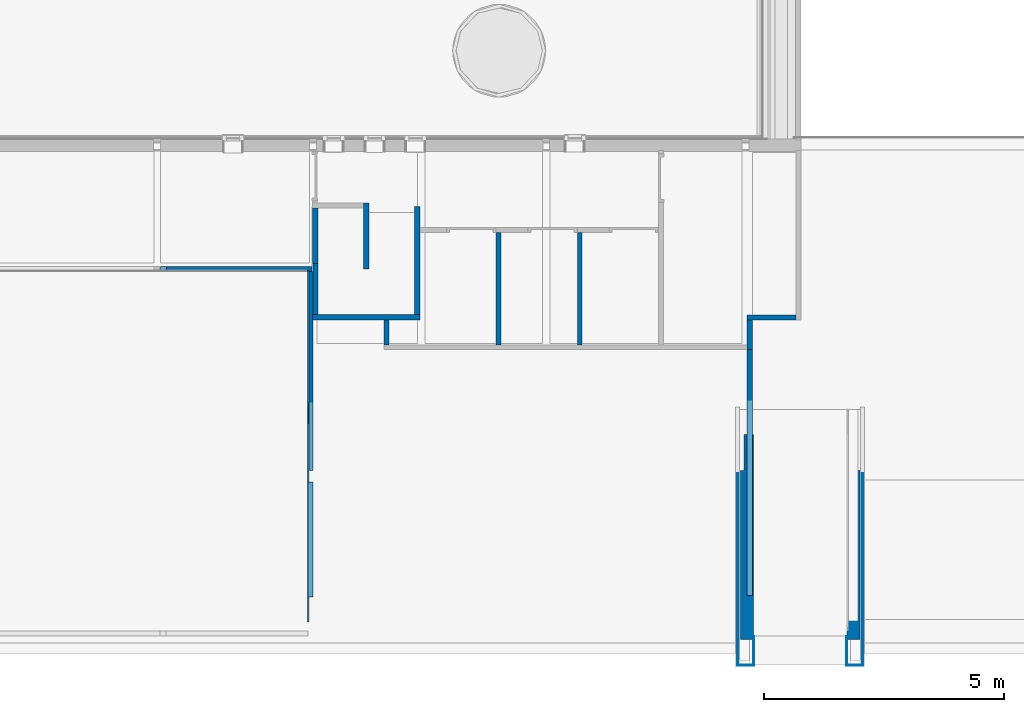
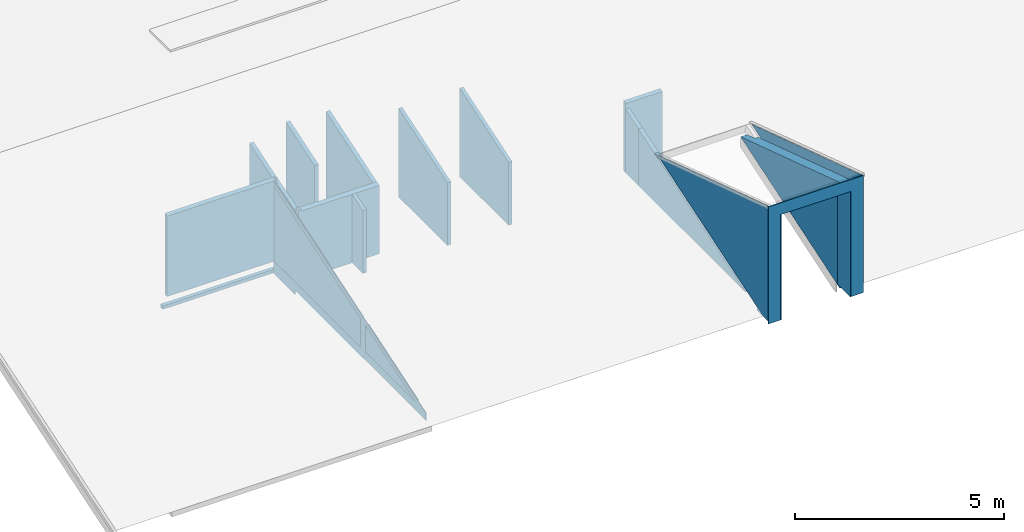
# One storey, part 18 of 66: 23 walls, 6 openings.
"""IFC2X3 building model written with IfcOpenShell, lengths in millimetres."""

from ifc_helpers import new_model, entity, si_unit, converted_unit, derived_unit, direction, frame, frame_2d, origin, place, context, subcontext, project, spatial, polyline, rectangle, outline, extrude, clip, halfspace, bounded_halfspace, material, layer, layer_set, layer_usage, type_object, element, save


model = new_model("IFC2X3")

# Units and contexts
model_context = context("Model", 3, precision=0.01, world=origin(), true_north=direction((6.12303176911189e-17, 1.0)))
body_context = subcontext(model_context, "Body", "Model", "MODEL_VIEW")
ifc_project = project(units=[si_unit("LENGTHUNIT", "METRE", prefix="MILLI"), si_unit("AREAUNIT", "SQUARE_METRE"), si_unit("VOLUMEUNIT", "CUBIC_METRE"), converted_unit("PLANEANGLEUNIT", "DEGREE", entity("IfcRatioMeasure", 0.0174532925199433), si_unit("PLANEANGLEUNIT", "RADIAN"), dimensions=[0, 0, 0, 0, 0, 0, 0]), si_unit("MASSUNIT", "GRAM", prefix="KILO"), derived_unit("MASSDENSITYUNIT", [(si_unit("MASSUNIT", "GRAM", prefix="KILO"), 1), (si_unit("LENGTHUNIT", "METRE"), -3)]), derived_unit("MOMENTOFINERTIAUNIT", [(si_unit("LENGTHUNIT", "METRE"), 4)]), si_unit("TIMEUNIT", "SECOND"), si_unit("FREQUENCYUNIT", "HERTZ"), si_unit("THERMODYNAMICTEMPERATUREUNIT", "DEGREE_CELSIUS"), derived_unit("THERMALTRANSMITTANCEUNIT", [(si_unit("MASSUNIT", "GRAM", prefix="KILO"), 1), (si_unit("THERMODYNAMICTEMPERATUREUNIT", "KELVIN"), -1), (si_unit("TIMEUNIT", "SECOND"), -3)]), derived_unit("VOLUMETRICFLOWRATEUNIT", [(si_unit("LENGTHUNIT", "METRE"), 3), (si_unit("TIMEUNIT", "SECOND"), -1)]), si_unit("ELECTRICCURRENTUNIT", "AMPERE"), si_unit("ELECTRICVOLTAGEUNIT", "VOLT"), si_unit("POWERUNIT", "WATT"), si_unit("FORCEUNIT", "NEWTON", prefix="KILO"), si_unit("ILLUMINANCEUNIT", "LUX"), si_unit("LUMINOUSFLUXUNIT", "LUMEN"), si_unit("LUMINOUSINTENSITYUNIT", "CANDELA"), derived_unit("USERDEFINED", [(si_unit("MASSUNIT", "GRAM", prefix="KILO"), -1), (si_unit("LENGTHUNIT", "METRE"), -2), (si_unit("TIMEUNIT", "SECOND"), 3), (si_unit("LUMINOUSFLUXUNIT", "LUMEN"), 1)]), derived_unit("LINEARVELOCITYUNIT", [(si_unit("LENGTHUNIT", "METRE"), 1), (si_unit("TIMEUNIT", "SECOND"), -1)]), si_unit("PRESSUREUNIT", "PASCAL"), derived_unit("USERDEFINED", [(si_unit("LENGTHUNIT", "METRE"), -2), (si_unit("MASSUNIT", "GRAM", prefix="KILO"), 1), (si_unit("TIMEUNIT", "SECOND"), -2)]), derived_unit("LINEARFORCEUNIT", [(si_unit("MASSUNIT", "GRAM", prefix="KILO"), 1), (si_unit("LENGTHUNIT", "METRE"), 1), (si_unit("TIMEUNIT", "SECOND"), -2), (si_unit("LENGTHUNIT", "METRE"), -1)]), derived_unit("PLANARFORCEUNIT", [(si_unit("MASSUNIT", "GRAM", prefix="KILO"), 1), (si_unit("LENGTHUNIT", "METRE"), 1), (si_unit("TIMEUNIT", "SECOND"), -2), (si_unit("LENGTHUNIT", "METRE"), -2)])], contexts=[model_context])

# Site, building, storey
site_placement = place(None, origin())
site = spatial("IfcSite", under=ifc_project, at=site_placement, Name="Default", CompositionType="ELEMENT")
building_placement = place(site_placement, origin())
building = spatial("IfcBuilding", under=site, at=building_placement, Name="-", CompositionType="ELEMENT")
storey_placement = place(building_placement, frame((0.0, 0.0, 3070.0)))
storey = spatial("IfcBuildingStorey", under=building, at=storey_placement, Name="01 eerste verdieping", CompositionType="ELEMENT", Elevation=3070.00000000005)

# Walls
ifc_material_1 = material(Name="NLRS_f7_gipsplaat_gen")
ifc_layer_1 = layer(ifc_material_1, 12.5)
ifc_material_2 = material(Name="NLRS_m1_isolatie")
ifc_layer_2 = layer(ifc_material_2, 75.0)
ifc_layer_3 = layer(ifc_material_1, 12.5)
ifc_layer_set_1 = layer_set([ifc_layer_1, ifc_layer_2, ifc_layer_3], Name="Basic Wall:NLRS_21_WA_Metalstud 100mm")
ifc_layer_usage_1 = layer_usage(ifc_layer_set_1, "AXIS2", "NEGATIVE", 50.0)
wall_type_1 = type_object("IfcWallType", Name="Basic Wall:NLRS_21_WA_Metalstud 100mm", PredefinedType="STANDARD", material=ifc_layer_set_1)
wall_1_placement = place(storey_placement, frame((22492.6948343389, 8459.62409540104, 0.0), z_axis=(0.0, 0.0, 1.0), x_axis=(0.0, -1.0, 0.0)))
element("IfcWallStandardCase", 1, at=wall_1_placement, inside=storey, type_object=wall_type_1, material=ifc_layer_usage_1, Name="Basic Wall:NLRS_21_WA_Metalstud 100mm", ObjectType="Basic Wall:NLRS_21_WA_Metalstud 100mm", context=body_context, shape_type="Clipping", body=[
    clip(extrude(rectangle(XDim=2341.50000000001, YDim=100.000000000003, at=frame_2d((1170.75, 7.70938868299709e-13), x_axis=(-1.0, 0.0))), origin(), (0.0, 0.0, 1.0), 2595.80416110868), halfspace(frame((0.0, -50.0, 2595.80416110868), z_axis=(0.309016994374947, 0.0, 0.951056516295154), x_axis=(0.0, 1.0, 0.0)), False)),
])
ifc_layer_usage_2 = layer_usage(ifc_layer_set_1, "AXIS2", "NEGATIVE", 50.0)
wall_2_placement = place(storey_placement, frame((24182.6948343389, 8459.62409540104, 0.0), z_axis=(0.0, 0.0, 1.0), x_axis=(0.0, -1.0, 0.0)))
element("IfcWallStandardCase", 2, at=wall_2_placement, inside=storey, type_object=wall_type_1, material=ifc_layer_usage_2, Name="Basic Wall:NLRS_21_WA_Metalstud 100mm", ObjectType="Basic Wall:NLRS_21_WA_Metalstud 100mm", context=body_context, shape_type="Clipping", body=[
    clip(extrude(rectangle(XDim=2341.50000000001, YDim=100.000000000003, at=frame_2d((1170.75000000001, 7.70938868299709e-13), x_axis=(-1.0, 0.0))), origin(), (0.0, 0.0, 1.0), 2595.80416110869), halfspace(frame((0.0, -50.0, 2595.80416110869), z_axis=(0.309016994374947, 0.0, 0.951056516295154), x_axis=(0.0, 1.0, 0.0)), False)),
])
ifc_layer_usage_3 = layer_usage(ifc_layer_set_1, "AXIS2", "NEGATIVE", 50.0)
wall_3_placement = place(storey_placement, frame((20156.892804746, 6636.72836228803, 0.0), z_axis=(0.0, 0.0, 1.0), x_axis=(0.0, -1.0, 0.0)))
element("IfcWallStandardCase", 3, at=wall_3_placement, inside=storey, type_object=wall_type_1, material=ifc_layer_usage_3, Name="Basic Wall:NLRS_21_WA_Metalstud 100mm", ObjectType="Basic Wall:NLRS_21_WA_Metalstud 100mm", context=body_context, shape_type="Clipping", body=[
    clip(extrude(rectangle(XDim=518.604266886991, YDim=100.000000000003, at=frame_2d((259.302133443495, -1.46016532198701e-12), x_axis=(-1.0, 0.0))), origin(), (0.0, 0.0, 1.0), 2003.50943324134), halfspace(frame((0.0, -50.0, 2003.50943324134), z_axis=(0.309016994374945, 0.0, 0.951056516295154), x_axis=(0.0, 1.0, 0.0)), False)),
])
ifc_layer_usage_4 = layer_usage(ifc_layer_set_1, "AXIS2", "NEGATIVE", 50.0)
wall_4_placement = place(storey_placement, frame((27664.8462249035, 6686.728362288, -18.0)))
element("IfcWallStandardCase", 4, at=wall_4_placement, inside=storey, type_object=wall_type_1, material=ifc_layer_usage_4, Name="Basic Wall:NLRS_21_WA_Metalstud 100mm", ObjectType="Basic Wall:NLRS_21_WA_Metalstud 100mm", context=body_context, shape_type="Clipping", body=[
    clip(extrude(rectangle(XDim=1015.84860943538, YDim=100.000000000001, at=frame_2d((507.924304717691, 2.8421709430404e-14), x_axis=(-1.0, 0.0))), origin(), (0.0, 0.0, 1.0), 2054.00140286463), bounded_halfspace(frame((0.0, -50.0, 2021.50943324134), z_axis=(0.0, -0.309016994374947, 0.951056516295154), x_axis=(1.0, 0.0, 0.0)), False, frame((0.0, -50.0, 2021.50943324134), z_axis=(0.0, -0.309016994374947, 0.951056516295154), x_axis=(1.0, 0.0, 0.0)), polyline([(0.0, 0.0), (1015.84860943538, 0.0), (1015.84860943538, 105.146222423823), (0.0, 105.146222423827), (0.0, 0.0)]))),
])
ifc_material_3 = material(Name="NLRS_i4_hout_multiplex zwart")
ifc_layer_4 = layer(ifc_material_3, 15.0)
ifc_layer_5 = layer(ifc_material_2, 75.0)
ifc_layer_6 = layer(ifc_material_1, 12.5)
ifc_layer_set_2 = layer_set([ifc_layer_4, ifc_layer_5, ifc_layer_6], Name="Basic Wall:NLRS_21_WA_Metalstud 100mm (achter sierbekleding)")
ifc_layer_usage_5 = layer_usage(ifc_layer_set_2, "AXIS2", "POSITIVE", -51.25)
wall_type_2 = type_object("IfcWallType", Name="Basic Wall:NLRS_21_WA_Metalstud 100mm (achter sierbekleding)", PredefinedType="STANDARD", material=ifc_layer_set_2)
wall_5_placement = place(storey_placement, frame((15576.5604272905, 7699.87122230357, -18.0)))
element("IfcWallStandardCase", 5, at=wall_5_placement, inside=storey, type_object=wall_type_2, material=ifc_layer_usage_5, Name="Basic Wall:NLRS_21_WA_Metalstud 100mm (achter sierbekleding)", ObjectType="Basic Wall:NLRS_21_WA_Metalstud 100mm (achter sierbekleding)", context=body_context, shape_type="Clipping", body=[
    clip(clip(extrude(rectangle(XDim=3034.1344070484, YDim=102.500000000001, at=frame_2d((1517.0672035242, 3.44613226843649e-13), x_axis=(-1.0, 0.0))), origin(), (0.0, 0.0, 1.0), 2393.89466842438), bounded_halfspace(frame((2994.87796713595, -51.2500000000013, 2350.29335393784), z_axis=(0.0, -0.309016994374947, 0.951056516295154), x_axis=(1.0, 0.0, 0.0)), False, frame((2994.87796713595, -51.2500000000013, 2350.29335393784), z_axis=(0.0, -0.309016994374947, 0.951056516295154), x_axis=(1.0, 0.0, 0.0)), polyline([(0.0, 0.0), (0.0, 107.774877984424), (-2994.87796713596, 107.774877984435), (-2994.87796713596, 0.0), (0.0, 0.0)]))), bounded_halfspace(frame((2994.87796713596, 51.2500000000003, 2383.59762280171), z_axis=(-1.0, 0.0, 0.0), x_axis=(0.0, 0.951056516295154, 0.309016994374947)), False, frame((2994.87796713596, 51.2500000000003, 2383.59762280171), z_axis=(-1.0, 0.0, 0.0), x_axis=(0.0, 0.951056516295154, 0.309016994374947)), polyline([(0.0, 0.0), (-107.774877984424, 0.0), (-94.3013308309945, -41.4673142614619), (3.18196208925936, -9.79307233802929), (0.0, 0.0)]))),
])
ifc_layer_usage_6 = layer_usage(ifc_layer_set_2, "AXIS2", "POSITIVE", -51.25)
wall_6_placement = place(storey_placement, frame((18578.4448343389, 7648.62122230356, 0.0), z_axis=(0.0, 0.0, 1.0), x_axis=(0.0, -1.0, 0.0)))
element("IfcWallStandardCase", 6, at=wall_6_placement, inside=storey, type_object=wall_type_2, material=ifc_layer_usage_6, Name="Basic Wall:NLRS_21_WA_Metalstud 100mm (achter sierbekleding)", ObjectType="Basic Wall:NLRS_21_WA_Metalstud 100mm (achter sierbekleding)", context=body_context, shape_type="Clipping", body=[
    clip(clip(clip(clip(extrude(rectangle(XDim=4142.90246135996, YDim=102.499999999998, at=frame_2d((2071.45123067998, 1.13686837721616e-13), x_axis=(-1.0, 0.0))), origin(), (0.0, 0.0, 1.0), 2191.04653255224), bounded_halfspace(frame((1011.89286001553, 44.7499999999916, 1860.69111937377), z_axis=(0.0, -1.0, 0.0), x_axis=(-1.0, 0.0, 0.0)), True, frame((1011.89286001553, 44.7499999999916, 1860.69111937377), z_axis=(0.0, -1.0, 0.0), x_axis=(-1.0, 0.0, 0.0)), polyline([(0.0, 0.0), (114.0, -37.2178899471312), (114.0, 1860.69111937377), (0.0, 1860.69111937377), (0.0, 0.0)]))), bounded_halfspace(frame((0.0, 50.7499999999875, 2190.53879456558), z_axis=(0.0, -1.0, 0.0), x_axis=(-0.960671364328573, 0.0, 0.277687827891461)), True, frame((0.0, 50.7499999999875, 2190.53879456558), z_axis=(0.0, -1.0, 0.0), x_axis=(-0.960671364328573, 0.0, 0.277687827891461)), polyline([(0.0, 0.0), (-608.285959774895, 2104.38789238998), (-1470.8659186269, 1855.05397441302), (-943.839688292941, 31.787137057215), (-14.1253488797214, 0.0), (0.0, 0.0)]))), bounded_halfspace(frame((13.5698181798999, 50.7499999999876, 2186.61635711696), z_axis=(0.277687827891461, 0.0, 0.960671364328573), x_axis=(0.0, 1.0, 0.0)), True, frame((13.5698181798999, 50.7499999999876, 2186.61635711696), z_axis=(0.277687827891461, 0.0, 0.960671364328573), x_axis=(0.0, 1.0, 0.0)), polyline([(0.0, 0.0), (0.500000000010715, 0.0), (0.500000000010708, 14.1253488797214), (0.0, 14.1253488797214), (0.0, 0.0)]))), halfspace(frame((0.0, -51.2500000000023, 2191.04653255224), z_axis=(0.310352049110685, 0.0, 0.950621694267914), x_axis=(0.0, 1.0, 0.0)), False)),
])
ifc_layer_usage_7 = layer_usage(ifc_layer_set_2, "AXIS2", "POSITIVE", -51.25)
wall_7_placement = place(storey_placement, frame((18578.4448343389, 3265.71876094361, 0.0), z_axis=(0.0, 0.0, 1.0), x_axis=(0.0, -1.0, 0.0)))
element("IfcWallStandardCase", 7, at=wall_7_placement, inside=storey, type_object=wall_type_2, material=ifc_layer_usage_7, Name="Basic Wall:NLRS_21_WA_Metalstud 100mm (achter sierbekleding)", ObjectType="Basic Wall:NLRS_21_WA_Metalstud 100mm (achter sierbekleding)", context=body_context, shape_type="Clipping", body=[
    clip(extrude(outline(polyline([(0.0, 51.2499999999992), (0.0, -34.7499999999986), (0.0, -51.2499999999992), (2394.34375171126, -51.2499999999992), (2394.34375171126, -34.7499999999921), (2802.54591786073, -34.749999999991), (2802.54591786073, -51.2499999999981), (3214.64711897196, -51.2499999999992), (3214.64711897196, 51.2499999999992), (0.0, 51.2499999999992)])), origin(), (0.0, 0.0, 1.0), 777.901169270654), halfspace(frame((0.0, -51.2500000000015, 777.901169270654), z_axis=(0.308992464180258, 0.0, 0.951064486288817), x_axis=(0.0, 1.0, 0.0)), False)),
])
ifc_layer_usage_8 = layer_usage(ifc_layer_set_2, "AXIS2", "POSITIVE", -51.25)
wall_8_placement = place(storey_placement, frame((15458.0104288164, 7699.87122230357, -350.0)))
element("IfcWallStandardCase", 8, at=wall_8_placement, inside=storey, type_object=wall_type_2, material=ifc_layer_usage_8, Name="Basic Wall:NLRS_21_WA_Metalstud 100mm (achter sierbekleding)", ObjectType="Basic Wall:NLRS_21_WA_Metalstud 100mm (achter sierbekleding)", context=body_context, shape_type="SweptSolid", body=[
    extrude(rectangle(XDim=3098.93440552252, YDim=102.500000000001, at=frame_2d((1549.46720276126, 9.9475983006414e-14), x_axis=(-1.0, 0.0))), origin(), (0.0, 0.0, 1.0), 101.999999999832),
])
ifc_layer_7 = layer(ifc_material_1, 12.5)
ifc_layer_8 = layer(ifc_material_2, 89.0)
ifc_layer_9 = layer(ifc_material_1, 12.5)
ifc_layer_set_3 = layer_set([ifc_layer_7, ifc_layer_8, ifc_layer_9], Name="Basic Wall:NLRS_21_WA_HSB-wand_114mm")
ifc_layer_usage_9 = layer_usage(ifc_layer_set_3, "AXIS2", "NEGATIVE", 57.0)
wall_type_3 = type_object("IfcWallType", Name="Basic Wall:NLRS_21_WA_HSB-wand_114mm", PredefinedType="STANDARD", material=ifc_layer_set_3)
wall_9_placement = place(storey_placement, frame((18673.6948343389, 8970.36587991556, 0.0), z_axis=(0.0, 0.0, 1.0), x_axis=(0.0, -1.0, 0.0)))
element("IfcWallStandardCase", 9, at=wall_9_placement, inside=storey, type_object=wall_type_3, material=ifc_layer_usage_9, Name="Basic Wall:NLRS_21_WA_HSB-wand_114mm", ObjectType="Basic Wall:NLRS_21_WA_HSB-wand_114mm", context=body_context, shape_type="Clipping", body=[
    clip(extrude(rectangle(XDim=1156.5, YDim=114.0, at=frame_2d((578.25, 4.44089209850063e-13), x_axis=(-1.0, 0.0))), origin(), (0.0, 0.0, 1.0), 2613.04303573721), halfspace(frame((0.0, -57.0, 2613.04303573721), z_axis=(0.308901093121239, 0.0, 0.951094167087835), x_axis=(0.0, 1.0, 0.0)), False)),
])
ifc_layer_usage_10 = layer_usage(ifc_layer_set_3, "AXIS2", "NEGATIVE", 57.0)
wall_10_placement = place(storey_placement, frame((20801.694834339, 8996.86587991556, 0.0), z_axis=(0.0, 0.0, 1.0), x_axis=(0.0, -1.0, 0.0)))
element("IfcWallStandardCase", 10, at=wall_10_placement, inside=storey, type_object=wall_type_3, material=ifc_layer_usage_10, Name="Basic Wall:NLRS_21_WA_HSB-wand_114mm", ObjectType="Basic Wall:NLRS_21_WA_HSB-wand_114mm", context=body_context, shape_type="Clipping", body=[
    clip(extrude(rectangle(XDim=2246.13751762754, YDim=114.0, at=frame_2d((1123.06875881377, 6.50146603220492e-13), x_axis=(-1.0, 0.0))), origin(), (0.0, 0.0, 1.0), 2770.36459853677), halfspace(frame((0.0, -57.0, 2770.36459853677), z_axis=(0.309016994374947, 0.0, 0.951056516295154), x_axis=(0.0, 1.0, 0.0)), False)),
])
ifc_layer_usage_11 = layer_usage(ifc_layer_set_3, "AXIS2", "NEGATIVE", 57.0)
wall_11_placement = place(storey_placement, frame((19737.6948343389, 9070.36587991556, -263.0), z_axis=(0.0, 0.0, 1.0), x_axis=(0.0, -1.0, 0.0)))
element("IfcWallStandardCase", 11, at=wall_11_placement, inside=storey, type_object=wall_type_3, material=ifc_layer_usage_11, Name="Basic Wall:NLRS_21_WA_HSB-wand_114mm", ObjectType="Basic Wall:NLRS_21_WA_HSB-wand_114mm", context=body_context, shape_type="Clipping", body=[
    clip(extrude(rectangle(XDim=1369.63751762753, YDim=114.0, at=frame_2d((684.818758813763, 2.87769807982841e-13), x_axis=(-1.0, 0.0))), origin(), (0.0, 0.0, 1.0), 3057.24619620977), halfspace(frame((0.0, -57.0, 3057.24619620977), z_axis=(0.309016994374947, 0.0, 0.951056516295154), x_axis=(0.0, 1.0, 0.0)), False)),
])
ifc_layer_usage_12 = layer_usage(ifc_layer_set_3, "AXIS2", "NEGATIVE", 57.0)
wall_12_placement = place(storey_placement, frame((18623.1948343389, 6693.72836228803, 0.0)))
element("IfcWallStandardCase", 12, at=wall_12_placement, inside=storey, type_object=wall_type_3, material=ifc_layer_usage_12, Name="Basic Wall:NLRS_21_WA_HSB-wand_114mm", ObjectType="Basic Wall:NLRS_21_WA_HSB-wand_114mm", context=body_context, shape_type="Clipping", body=[
    clip(clip(extrude(rectangle(XDim=2235.50000000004, YDim=114.0, at=frame_2d((1117.75000000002, -2.48689957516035e-13), x_axis=(-1.0, 0.0))), origin(), (0.0, 0.0, 1.0), 2059.28149540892), bounded_halfspace(frame((78.2435600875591, 57.0, 2040.5502786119), z_axis=(0.0, -0.309016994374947, 0.951056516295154), x_axis=(1.0, 0.0, 0.0)), False, frame((78.2435600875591, 57.0, 2040.5502786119), z_axis=(0.0, -0.309016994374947, 0.951056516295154), x_axis=(1.0, 0.0, 0.0)), polyline([(0.0, 0.0), (0.0, -119.866693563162), (1405.45441031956, -119.866693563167), (1505.45441031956, -119.866693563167), (2157.25643991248, -119.86669356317), (2157.25643991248, 0.0), (2043.25643991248, 0.0), (0.0, 0.0)]))), bounded_halfspace(frame((78.2435600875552, -57.0, 2003.50943324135), z_axis=(1.0, 0.0, 0.0), x_axis=(0.0, 0.951056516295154, 0.309016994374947)), False, frame((78.2435600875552, -57.0, 2003.50943324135), z_axis=(1.0, 0.0, 0.0), x_axis=(0.0, 0.951056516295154, 0.309016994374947)), polyline([(0.0, 0.0), (119.866693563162, 0.0), (125.654957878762, 17.8144457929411), (17.2345150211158, 53.0423831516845), (0.0, 0.0)]))),
])
ifc_layer_10 = layer(ifc_material_1, 12.5)
ifc_material_4 = material(Name="NLRS_i4_hout_underlayment")
ifc_layer_11 = layer(ifc_material_4, 10.0)
ifc_layer_12 = layer(ifc_material_2, 75.0)
ifc_layer_13 = layer(ifc_material_1, 12.5)
ifc_layer_set_4 = layer_set([ifc_layer_10, ifc_layer_11, ifc_layer_12, ifc_layer_13], Name="Basic Wall:NLRS_21_WA_Metalstud 110mm (rand staalconstructie)")
ifc_layer_usage_13 = layer_usage(ifc_layer_set_4, "AXIS2", "NEGATIVE", 55.0)
wall_type_4 = type_object("IfcWallType", Name="Basic Wall:NLRS_21_WA_Metalstud 110mm (rand staalconstructie)", PredefinedType="STANDARD", material=ifc_layer_set_4)
wall_13_placement = place(storey_placement, frame((27719.8462249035, 6636.728362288, -18.0), z_axis=(0.0, 0.0, 1.0), x_axis=(0.0, -1.0, 0.0)))
element("IfcWallStandardCase", 13, at=wall_13_placement, inside=storey, type_object=wall_type_4, material=ifc_layer_usage_13, Name="Basic Wall:NLRS_21_WA_Metalstud 110mm (rand staalconstructie)", ObjectType="Basic Wall:NLRS_21_WA_Metalstud 110mm (rand staalconstructie)", context=body_context, shape_type="Clipping", body=[
    clip(extrude(rectangle(XDim=618.604266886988, YDim=110.000000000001, at=frame_2d((309.302133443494, -1.81543668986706e-12), x_axis=(-1.0, 0.0))), origin(), (0.0, 0.0, 1.0), 1864.25049087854), halfspace(frame((0.0, -55.0, 1864.25049087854), z_axis=(0.308992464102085, 0.0, 0.951064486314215), x_axis=(0.0, 1.0, 0.0)), False)),
])
ifc_layer_usage_14 = layer_usage(ifc_layer_set_4, "AXIS2", "POSITIVE", -55.0)
wall_14_placement = place(storey_placement, frame((27719.8462249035, 898.651737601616, -18.0), z_axis=(0.0, 0.0, 1.0), x_axis=(0.0, 1.0, 0.0)))
element("IfcWallStandardCase", 14, at=wall_14_placement, inside=storey, type_object=wall_type_4, material=ifc_layer_usage_14, Name="Basic Wall:NLRS_21_WA_Metalstud 110mm (rand staalconstructie)", ObjectType="Basic Wall:NLRS_21_WA_Metalstud 110mm (rand staalconstructie)", context=body_context, shape_type="Clipping", body=[
    clip(extrude(rectangle(XDim=5119.47235779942, YDim=110.000000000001, at=frame_2d((2559.73617889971, -4.2632564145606e-14), x_axis=(-1.0, 0.0))), origin(), (0.0, 0.0, 1.0), 1663.27142007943), halfspace(frame((0.0, -55.0, 0.0), z_axis=(-0.308992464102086, 0.0, 0.951064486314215), x_axis=(0.0, 1.0, 0.0)), False)),
])

# Wall, opening
ifc_material_5 = material(Name="AL Houten gevelbekleding staand")
ifc_layer_14 = layer(ifc_material_5, 20.0)
ifc_layer_set_5 = layer_set([ifc_layer_14], Name="Basic Wall:NLRS_42_WA_Houten gevelbekleding staand 20mm")
ifc_layer_usage_15 = layer_usage(ifc_layer_set_5, "AXIS2", "NEGATIVE", 10.0)
wall_type_5 = type_object("IfcWallType", Name="Basic Wall:NLRS_42_WA_Houten gevelbekleding staand 20mm", PredefinedType="STANDARD", material=ifc_layer_set_5)
wall_15_placement = place(storey_placement, frame((30084.3462249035, -547.516507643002, 0.0), z_axis=(0.0, 0.0, 1.0), x_axis=(-1.0, 0.0, 0.0)))
wall_15 = element("IfcWallStandardCase", 15, at=wall_15_placement, inside=storey, type_object=wall_type_5, material=ifc_layer_usage_15, Name="Basic Wall:NLRS_42_WA_Houten gevelbekleding staand 20mm", ObjectType="Basic Wall:NLRS_42_WA_Houten gevelbekleding staand 20mm", context=body_context, shape_type="SweptSolid", body=[
    extrude(rectangle(XDim=2621.99999999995, YDim=20.0000000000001, at=frame_2d((1310.99999999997, -2.04281036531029e-14), x_axis=(-1.0, 0.0))), origin(), (0.0, 0.0, 1.0), 3425.90316159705),
])
opening_1_placement = place(wall_15_placement, origin())
element("IfcOpeningElement", 16, at=opening_1_placement, cuts=wall_15, Name="Basic Wall:NLRS_42_WA_Houten gevelbekleding staand 20mm", ObjectType="Opening", context=body_context, shape_type="SweptSolid", body=[
    extrude(rectangle(XDim=3078.35905654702, YDim=1928.00000000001, at=frame_2d((0.0, -2.27373675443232e-13), x_axis=(0.0, 1.0))), frame((1314.5, 10.0, 1539.17952827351), z_axis=(0.0, -1.0, 0.0), x_axis=(1.0, 0.0, 0.0)), (0.0, 0.0, 1.0), 20.0),
])

ifc_layer_usage_16 = layer_usage(ifc_layer_set_5, "AXIS2", "NEGATIVE", 10.0)
wall_16_placement = place(storey_placement, frame((27472.3462249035, -538.516507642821, 69.7589307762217), z_axis=(0.0, 0.0, 1.0), x_axis=(0.0, 1.0, 0.0)))
wall_16 = element("IfcWallStandardCase", 17, at=wall_16_placement, inside=storey, type_object=wall_type_5, material=ifc_layer_usage_16, Name="Basic Wall:NLRS_42_WA_Houten gevelbekleding staand 20mm", ObjectType="Basic Wall:NLRS_42_WA_Houten gevelbekleding staand 20mm", context=body_context, shape_type="Clipping", body=[
    clip(clip(clip(extrude(rectangle(XDim=5279.64459977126, YDim=20.0000000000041, at=frame_2d((2639.82229988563, -7.105427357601e-15), x_axis=(-1.0, 0.0))), origin(), (0.0, 0.0, 1.0), 3359.24525931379), halfspace(frame((0.0, -10.0, 3359.24525931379), z_axis=(0.308965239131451, 0.0, 0.95107333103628), x_axis=(0.0, 1.0, 0.0)), False)), halfspace(frame((524.637729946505, -10.0, 0.0), z_axis=(0.0, 0.0, -1.0), x_axis=(0.0, 1.0, 0.0)), False)), halfspace(frame((524.637729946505, 0.0, 0.0), z_axis=(0.326780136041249, 0.0, -0.945100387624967), x_axis=(0.0, 1.0, 0.0)), False)),
])
opening_2_placement = place(wall_16_placement, origin())
element("IfcOpeningElement", 18, at=opening_2_placement, cuts=wall_16, Name="Basic Wall:NLRS_42_WA_Houten gevelbekleding staand 20mm", ObjectType="Opening", context=body_context, shape_type="SweptSolid", body=[
    extrude(outline(polyline([(-1687.89950362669, -31.3121395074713), (3343.31932993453, -31.3121395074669), (-1655.41982630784, 62.6242790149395), (-1687.89950362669, -31.3121395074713)])), frame((2109.64001988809, 10.0, 581.165144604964), z_axis=(0.0, -1.0, 0.0), x_axis=(0.945100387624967, 0.0, 0.326780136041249)), (0.0, 0.0, 1.0), 20.0),
])

ifc_layer_usage_17 = layer_usage(ifc_layer_set_5, "AXIS2", "NEGATIVE", 10.0)
wall_17_placement = place(storey_placement, frame((30067.3462249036, -538.516507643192, 71.2765272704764), z_axis=(0.0, 0.0, 1.0), x_axis=(0.0, 1.0, 0.0)))
wall_17 = element("IfcWallStandardCase", 19, at=wall_17_placement, inside=storey, type_object=wall_type_5, material=ifc_layer_usage_17, Name="Basic Wall:NLRS_42_WA_Houten gevelbekleding staand 20mm", ObjectType="Basic Wall:NLRS_42_WA_Houten gevelbekleding staand 20mm", context=body_context, shape_type="Clipping", body=[
    clip(clip(clip(extrude(rectangle(XDim=5280.10554660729, YDim=20.0000000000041, at=frame_2d((2640.05277330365, -7.105427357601e-15), x_axis=(-1.0, 0.0))), origin(), (0.0, 0.0, 1.0), 3358.05449151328), halfspace(frame((0.0, -10.0, 3358.05449151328), z_axis=(0.308965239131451, 0.0, 0.95107333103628), x_axis=(0.0, 1.0, 0.0)), False)), halfspace(frame((524.637729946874, -10.0, 0.0), z_axis=(0.0, 0.0, -1.0), x_axis=(0.0, 1.0, 0.0)), False)), halfspace(frame((524.637729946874, 0.0, 0.0), z_axis=(0.326513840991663, 0.0, -0.945192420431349), x_axis=(0.0, 1.0, 0.0)), False)),
])
opening_3_placement = place(wall_17_placement, origin())
element("IfcOpeningElement", 20, at=opening_3_placement, cuts=wall_17, Name="Basic Wall:NLRS_42_WA_Houten gevelbekleding staand 20mm", ObjectType="Opening", context=body_context, shape_type="SweptSolid", body=[
    extrude(outline(polyline([(-1687.69660917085, -30.7555234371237), (3343.52001282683, -30.7555234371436), (-1655.82340365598, 61.5110468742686), (-1687.69660917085, -30.7555234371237)])), frame((2109.79366883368, 10.0, 580.126189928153), z_axis=(0.0, -1.0, 0.0), x_axis=(0.945192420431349, 0.0, 0.326513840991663)), (0.0, 0.0, 1.0), 20.0),
])

# Walls
ifc_layer_usage_18 = layer_usage(ifc_layer_set_5, "AXIS2", "NEGATIVE", 10.0)
wall_18_placement = place(storey_placement, frame((27805.8462249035, 51.3703555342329, 0.0), z_axis=(0.0, 0.0, 1.0), x_axis=(0.0, -1.0, 0.0)))
element("IfcWallStandardCase", 21, at=wall_18_placement, inside=storey, type_object=wall_type_5, material=ifc_layer_usage_18, Name="Basic Wall:NLRS_42_WA_Houten gevelbekleding staand 20mm", ObjectType="Basic Wall:NLRS_42_WA_Houten gevelbekleding staand 20mm", context=body_context, shape_type="Clipping", body=[
    clip(extrude(rectangle(XDim=608.886863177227, YDim=20.0000000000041, at=frame_2d((304.443431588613, 0.0), x_axis=(-1.0, 0.0))), origin(), (0.0, 0.0, 1.0), 3082.85245058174), halfspace(frame((0.0, -10.0, 2937.9421467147), z_axis=(-0.238946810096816, 0.0, 0.971032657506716), x_axis=(0.0, 1.0, 0.0)), False)),
])
ifc_layer_usage_19 = layer_usage(ifc_layer_set_5, "AXIS2", "NEGATIVE", 10.0)
wall_19_placement = place(storey_placement, frame((29733.8462249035, 56.1212223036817, 0.0), z_axis=(0.0, 0.0, 1.0), x_axis=(0.0, -1.0, 0.0)))
element("IfcWallStandardCase", 22, at=wall_19_placement, inside=storey, type_object=wall_type_5, material=ifc_layer_usage_19, Name="Basic Wall:NLRS_42_WA_Houten gevelbekleding staand 20mm", ObjectType="Basic Wall:NLRS_42_WA_Houten gevelbekleding staand 20mm", context=body_context, shape_type="Clipping", body=[
    clip(extrude(rectangle(XDim=613.637729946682, YDim=20.0000000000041, at=frame_2d((306.818864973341, 0.0), x_axis=(-1.0, 0.0))), origin(), (0.0, 0.0, 1.0), 3082.87181764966), halfspace(frame((0.0, -10.0, 2937.94214671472), z_axis=(-0.237172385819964, 0.0, 0.971467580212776), x_axis=(0.0, 1.0, 0.0)), False)),
])
ifc_material_6 = material(Name="NLRS_i4_hout_multiplex")
ifc_layer_15 = layer(ifc_material_6, 10.0)
ifc_layer_16 = layer(ifc_material_2, 235.0)
ifc_layer_17 = layer(ifc_material_6, 10.0)
ifc_layer_18 = layer(ifc_material_1, 12.5)
ifc_layer_set_6 = layer_set([ifc_layer_15, ifc_layer_16, ifc_layer_17, ifc_layer_18], Name="Basic Wall:NLRS_21_WA_HSB-wand_268mm")
ifc_layer_usage_20 = layer_usage(ifc_layer_set_6, "AXIS2", "NEGATIVE", 133.75)
wall_type_6 = type_object("IfcWallType", Name="Basic Wall:NLRS_21_WA_HSB-wand_268mm", PredefinedType="STANDARD", material=ifc_layer_set_6)
wall_20_placement = place(storey_placement, frame((27659.0962249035, -13.8787776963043, -83.2262941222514), z_axis=(0.0, 0.0, 1.0), x_axis=(0.0, 1.0, 0.0)))
element("IfcWallStandardCase", 23, at=wall_20_placement, inside=storey, type_object=wall_type_6, material=ifc_layer_usage_20, Name="Basic Wall:NLRS_21_WA_HSB-wand_268mm", ObjectType="Basic Wall:NLRS_21_WA_HSB-wand_268mm", context=body_context, shape_type="Clipping", body=[
    clip(clip(clip(extrude(rectangle(XDim=4752.49962113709, YDim=267.5, at=frame_2d((2376.24981056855, -1.70530256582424e-13), x_axis=(-1.0, 0.0))), origin(), (0.0, 0.0, 1.0), 3088.36146649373), bounded_halfspace(frame((0.0, 59.931995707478, 240.20968072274), z_axis=(0.0, -1.0, 0.0), x_axis=(1.0, 0.0, 0.0)), True, frame((0.0, 59.931995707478, 240.20968072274), z_axis=(0.0, -1.0, 0.0), x_axis=(1.0, 0.0, 0.0)), polyline([(0.0, 0.0), (0.0, -227.715247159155), (3.67202189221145, -239.016568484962), (4752.49962113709, 1303.97105252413), (4382.85493122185, 1424.07589288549), (0.0, 0.0)]))), halfspace(frame((0.0, -133.75, 3088.36146649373), z_axis=(0.309016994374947, 0.0, 0.951056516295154), x_axis=(0.0, 1.0, 0.0)), False)), halfspace(frame((4752.49962113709, -133.75, 1544.18073324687), z_axis=(0.309016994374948, 0.0, -0.951056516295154), x_axis=(0.0, 1.0, 0.0)), False)),
])
ifc_layer_usage_21 = layer_usage(ifc_layer_set_6, "AXIS2", "POSITIVE", -133.75)
wall_21_placement = place(storey_placement, frame((29880.5962249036, -13.8787776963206, -83.157210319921), z_axis=(0.0, 0.0, 1.0), x_axis=(0.0, 1.0, 0.0)))
element("IfcWallStandardCase", 24, at=wall_21_placement, inside=storey, type_object=wall_type_6, material=ifc_layer_usage_21, Name="Basic Wall:NLRS_21_WA_HSB-wand_268mm", ObjectType="Basic Wall:NLRS_21_WA_HSB-wand_268mm", context=body_context, shape_type="Clipping", body=[
    clip(clip(clip(extrude(rectangle(XDim=4752.59315699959, YDim=267.5, at=frame_2d((2376.29657849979, -9.9475983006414e-14), x_axis=(-1.0, 0.0))), origin(), (0.0, 0.0, 1.0), 3088.28672859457), bounded_halfspace(frame((4382.84623046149, -48.2193948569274, 1664.21366275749), z_axis=(0.0, 1.0, 0.0), x_axis=(-1.0, 0.0, 0.0)), True, frame((4382.84623046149, -48.2193948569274, 1664.21366275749), z_axis=(0.0, 1.0, 0.0), x_axis=(-1.0, 0.0, 0.0)), polyline([(0.0, 0.0), (-369.746926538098, -120.138059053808), (4379.1944811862, -1663.02724162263), (4382.84623046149, -1651.78831299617), (4382.84623046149, -1424.07306583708), (0.0, 0.0)]))), halfspace(frame((4752.59315699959, 133.75, 1544.07560370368), z_axis=(0.309016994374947, 0.0, 0.951056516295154), x_axis=(0.0, 1.0, 0.0)), False)), halfspace(frame((0.0, 133.75, 0.0), z_axis=(0.308992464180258, 0.0, -0.951064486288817), x_axis=(0.0, 1.0, 0.0)), False)),
])

# Wall, openings
ifc_layer_19 = layer(ifc_material_3, 18.0)
ifc_layer_set_7 = layer_set([ifc_layer_19], Name="Basic Wall:NLRS_41_WA_plaatmateriaal 18mm zwart")
ifc_layer_usage_22 = layer_usage(ifc_layer_set_7, "AXIS2", "NEGATIVE", 9.0)
wall_type_7 = type_object("IfcWallType", Name="Basic Wall:NLRS_41_WA_plaatmateriaal 18mm zwart", PredefinedType="STANDARD", material=ifc_layer_set_7)
wall_22_placement = place(storey_placement, frame((18534.6948343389, 357.62122230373, -370.0), z_axis=(0.0, 0.0, 1.0), x_axis=(0.0, 1.0, 0.0)))
wall_22 = element("IfcWallStandardCase", 25, at=wall_22_placement, inside=storey, type_object=wall_type_7, material=ifc_layer_usage_22, Name="Basic Wall:NLRS_41_WA_plaatmateriaal 18mm zwart", ObjectType="Basic Wall:NLRS_41_WA_plaatmateriaal 18mm zwart", context=body_context, shape_type="Clipping", body=[
    clip(clip(clip(extrude(rectangle(XDim=7307.29684124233, YDim=18.0000000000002, at=frame_2d((3653.64842062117, 0.0), x_axis=(-1.0, 0.0))), origin(), (0.0, 0.0, 1.0), 2704.00147333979), halfspace(frame((0.0, -9.0, 335.707209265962), z_axis=(-0.308992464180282, 0.0, 0.95106448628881), x_axis=(0.0, 1.0, 0.0)), False)), halfspace(frame((7307.29684124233, -9.0, 0.0), z_axis=(0.0, 0.0, -1.0), x_axis=(0.0, 1.0, 0.0)), False)), halfspace(frame((7289.49999999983, 0.0, 2704.00147333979), z_axis=(0.999970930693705, 0.0, 0.00762481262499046), x_axis=(0.0, -1.0, 0.0)), False)),
])
opening_4_placement = place(wall_22_placement, origin())
element("IfcOpeningElement", 26, at=opening_4_placement, cuts=wall_22, Name="Basic Wall:NLRS_41_WA_plaatmateriaal 18mm zwart", ObjectType="Opening", context=body_context, shape_type="SweptSolid", body=[
    extrude(outline(polyline([(-259.300389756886, -798.114583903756), (518.600779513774, -798.114583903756), (-259.300389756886, 1596.22916780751), (-259.300389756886, -798.114583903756)])), frame((2109.98295473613, 9.0, 629.300389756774), z_axis=(0.0, -1.0, 0.0), x_axis=(0.0, 0.0, 1.0)), (0.0, 0.0, 1.0), 18.0),
])
opening_5_placement = place(wall_22_placement, origin())
element("IfcOpeningElement", 27, at=opening_5_placement, cuts=wall_22, Name="Basic Wall:NLRS_41_WA_plaatmateriaal 18mm zwart", ObjectType="Opening", context=body_context, shape_type="SweptSolid", body=[
    extrude(rectangle(XDim=122.581624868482, YDim=6279.1071399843, at=frame_2d((4.33075797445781e-12, 0.0), x_axis=(1.0, 0.0))), frame((3139.55356999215, 9.0, 61.2908124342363), z_axis=(0.0, -1.0, 0.0), x_axis=(0.0, 0.0, 1.0)), (0.0, 0.0, 1.0), 18.0),
])
opening_6_placement = place(wall_22_placement, origin())
element("IfcOpeningElement", 28, at=opening_6_placement, cuts=wall_22, Name="Basic Wall:NLRS_41_WA_plaatmateriaal 18mm zwart", ObjectType="Opening", context=body_context, shape_type="SweptSolid", body=[
    extrude(outline(polyline([(-1261.38943355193, -1653.00161629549), (1072.61203978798, -1670.79845753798), (1072.61203978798, 2488.40084506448), (234.110137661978, 2488.40084506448), (-1117.94478368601, -1653.00161629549), (-1261.38943355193, -1653.00161629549)])), frame((5636.49838370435, 9.0, 1442.61203978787), z_axis=(0.0, 1.0, 0.0), x_axis=(0.0, 0.0, -1.0)), (0.0, 0.0, -1.0), 18.0),
])

# Wall
ifc_layer_20 = layer(ifc_material_1, 12.5)
ifc_layer_21 = layer(ifc_material_2, 89.0)
ifc_layer_set_8 = layer_set([ifc_layer_20, ifc_layer_21], Name="Basic Wall:NLRS_21_WA_HSB-wand_102mm")
ifc_layer_usage_23 = layer_usage(ifc_layer_set_8, "AXIS2", "NEGATIVE", 50.75)
wall_type_8 = type_object("IfcWallType", Name="Basic Wall:NLRS_21_WA_HSB-wand_102mm", PredefinedType="STANDARD", material=ifc_layer_set_8)
wall_23_placement = place(storey_placement, frame((18679.9448343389, 7813.86587991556, 0.0), z_axis=(0.0, 0.0, 1.0), x_axis=(0.0, -1.0, 0.0)))
element("IfcWallStandardCase", 29, at=wall_23_placement, inside=storey, type_object=wall_type_8, material=ifc_layer_usage_23, Name="Basic Wall:NLRS_21_WA_HSB-wand_102mm", ObjectType="Basic Wall:NLRS_21_WA_HSB-wand_102mm", context=body_context, shape_type="Clipping", body=[
    clip(extrude(rectangle(XDim=1063.13751762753, YDim=101.499999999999, at=frame_2d((531.568758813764, 3.23296944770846e-13), x_axis=(-1.0, 0.0))), origin(), (0.0, 0.0, 1.0), 2238.30375534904), halfspace(frame((0.0, -50.7500000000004, 2238.30375534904), z_axis=(0.277687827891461, 0.0, 0.960671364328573), x_axis=(0.0, 1.0, 0.0)), False)),
])

save(model, "model.ifc")
